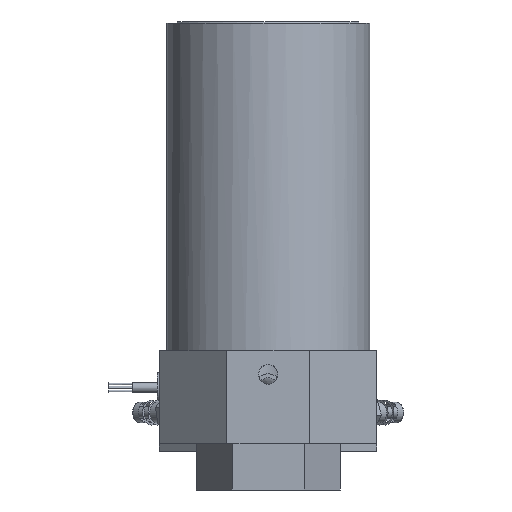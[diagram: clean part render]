
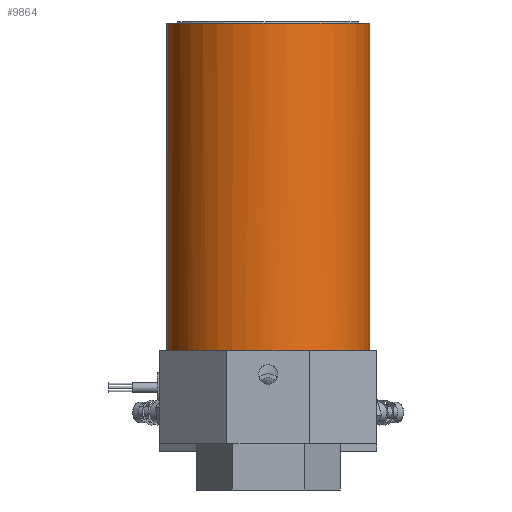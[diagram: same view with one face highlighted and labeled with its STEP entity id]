
A CAD part, left-side view. The second image highlights one B-rep face of the part: STEP entity #9864.
In plain terms, the highlighted cylindrical face has radius 20.637 mm (diameter 41.275 mm), a full revolution.
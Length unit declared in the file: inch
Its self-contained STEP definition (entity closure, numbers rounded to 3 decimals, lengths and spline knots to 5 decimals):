
#513=LINE('',#14115,#1354);
#1354=VECTOR('',#11487,0.8125);
#2168=CYLINDRICAL_SURFACE('',#10486,0.8125);
#2281=FACE_OUTER_BOUND('',#2826,.T.);
#2826=EDGE_LOOP('',(#6287,#6288,#6289,#6290,#6291,#6292,#6293,#6294,#6295,
#6296,#6297,#6298,#6299,#6300));
#3431=CIRCLE('',#10472,0.8125);
#3432=CIRCLE('',#10474,0.8125);
#3433=CIRCLE('',#10476,0.8125);
#3435=CIRCLE('',#10479,0.8125);
#3437=CIRCLE('',#10482,0.8125);
#3440=CIRCLE('',#10487,0.8125);
#3441=CIRCLE('',#10488,0.8125);
#3442=CIRCLE('',#10489,0.8125);
#3443=CIRCLE('',#10490,0.8125);
#3444=CIRCLE('',#10491,0.8125);
#3445=CIRCLE('',#10492,0.8125);
#3446=CIRCLE('',#10493,0.8125);
#3792=VERTEX_POINT('',#14077);
#3793=VERTEX_POINT('',#14078);
#3794=VERTEX_POINT('',#14082);
#3795=VERTEX_POINT('',#14083);
#3796=VERTEX_POINT('',#14087);
#3797=VERTEX_POINT('',#14088);
#3799=VERTEX_POINT('',#14093);
#3800=VERTEX_POINT('',#14095);
#3801=VERTEX_POINT('',#14099);
#3803=VERTEX_POINT('',#14102);
#3806=VERTEX_POINT('',#14112);
#3807=VERTEX_POINT('',#14114);
#4772=EDGE_CURVE('',#3793,#3792,#3431,.T.);
#4774=EDGE_CURVE('',#3794,#3795,#3432,.T.);
#4776=EDGE_CURVE('',#3797,#3796,#3433,.T.);
#4778=EDGE_CURVE('',#3799,#3800,#3435,.T.);
#4782=EDGE_CURVE('',#3803,#3801,#3437,.T.);
#4786=EDGE_CURVE('',#3806,#3806,#3440,.T.);
#4787=EDGE_CURVE('',#3806,#3807,#513,.T.);
#4788=EDGE_CURVE('',#3801,#3807,#3441,.T.);
#4789=EDGE_CURVE('',#3792,#3803,#3442,.T.);
#4790=EDGE_CURVE('',#3795,#3793,#3443,.T.);
#4791=EDGE_CURVE('',#3796,#3794,#3444,.T.);
#4792=EDGE_CURVE('',#3800,#3797,#3445,.T.);
#4793=EDGE_CURVE('',#3807,#3799,#3446,.T.);
#6287=ORIENTED_EDGE('',*,*,#4786,.T.);
#6288=ORIENTED_EDGE('',*,*,#4787,.T.);
#6289=ORIENTED_EDGE('',*,*,#4788,.F.);
#6290=ORIENTED_EDGE('',*,*,#4782,.F.);
#6291=ORIENTED_EDGE('',*,*,#4789,.F.);
#6292=ORIENTED_EDGE('',*,*,#4772,.F.);
#6293=ORIENTED_EDGE('',*,*,#4790,.F.);
#6294=ORIENTED_EDGE('',*,*,#4774,.F.);
#6295=ORIENTED_EDGE('',*,*,#4791,.F.);
#6296=ORIENTED_EDGE('',*,*,#4776,.F.);
#6297=ORIENTED_EDGE('',*,*,#4792,.F.);
#6298=ORIENTED_EDGE('',*,*,#4778,.F.);
#6299=ORIENTED_EDGE('',*,*,#4793,.F.);
#6300=ORIENTED_EDGE('',*,*,#4787,.F.);
#9864=ADVANCED_FACE('',(#2281),#2168,.T.);
#10472=AXIS2_PLACEMENT_3D('',#14080,#11450,#11451);
#10474=AXIS2_PLACEMENT_3D('',#14085,#11455,#11456);
#10476=AXIS2_PLACEMENT_3D('',#14090,#11460,#11461);
#10479=AXIS2_PLACEMENT_3D('',#14096,#11466,#11467);
#10482=AXIS2_PLACEMENT_3D('',#14104,#11474,#11475);
#10486=AXIS2_PLACEMENT_3D('',#14111,#11483,#11484);
#10487=AXIS2_PLACEMENT_3D('',#14113,#11485,#11486);
#10488=AXIS2_PLACEMENT_3D('',#14116,#11488,#11489);
#10489=AXIS2_PLACEMENT_3D('',#14117,#11490,#11491);
#10490=AXIS2_PLACEMENT_3D('',#14118,#11492,#11493);
#10491=AXIS2_PLACEMENT_3D('',#14119,#11494,#11495);
#10492=AXIS2_PLACEMENT_3D('',#14120,#11496,#11497);
#10493=AXIS2_PLACEMENT_3D('',#14121,#11498,#11499);
#11450=DIRECTION('center_axis',(0.,0.,
-1.));
#11451=DIRECTION('ref_axis',(-1.,0.,0.));
#11455=DIRECTION('center_axis',(0.,0.,
-1.));
#11456=DIRECTION('ref_axis',(-1.,0.,0.));
#11460=DIRECTION('center_axis',(0.,0.,
-1.));
#11461=DIRECTION('ref_axis',(-1.,0.,0.));
#11466=DIRECTION('center_axis',(0.,0.,
-1.));
#11467=DIRECTION('ref_axis',(-1.,0.,0.));
#11474=DIRECTION('center_axis',(0.,0.,
-1.));
#11475=DIRECTION('ref_axis',(-1.,0.,0.));
#11483=DIRECTION('center_axis',(0.,0.,
1.));
#11484=DIRECTION('ref_axis',(-1.,0.,0.));
#11485=DIRECTION('center_axis',(0.,0.,
-1.));
#11486=DIRECTION('ref_axis',(-1.,0.,0.));
#11487=DIRECTION('',(0.,0.,-1.));
#11488=DIRECTION('center_axis',(0.,0.,-1.));
#11489=DIRECTION('ref_axis',(-1.,0.,0.));
#11490=DIRECTION('center_axis',(0.,0.,-1.));
#11491=DIRECTION('ref_axis',(-1.,0.,0.));
#11492=DIRECTION('center_axis',(0.,0.,-1.));
#11493=DIRECTION('ref_axis',(-1.,0.,0.));
#11494=DIRECTION('center_axis',(0.,0.,-1.));
#11495=DIRECTION('ref_axis',(-1.,0.,0.));
#11496=DIRECTION('center_axis',(0.,0.,-1.));
#11497=DIRECTION('ref_axis',(-1.,0.,0.));
#11498=DIRECTION('center_axis',(0.,0.,-1.));
#11499=DIRECTION('ref_axis',(-1.,0.,0.));
#14077=CARTESIAN_POINT('',(-0.49804,0.64196,0.745));
#14078=CARTESIAN_POINT('',(-0.64196,0.49804,0.745));
#14080=CARTESIAN_POINT('Origin',(0.,0.,
0.745));
#14082=CARTESIAN_POINT('',(-0.81,-0.06369,0.745));
#14083=CARTESIAN_POINT('',(-0.81,0.06369,0.745));
#14085=CARTESIAN_POINT('Origin',(0.,0.,
0.745));
#14087=CARTESIAN_POINT('',(-0.64196,-0.49804,0.745));
#14088=CARTESIAN_POINT('',(-0.49804,-0.64196,0.745));
#14090=CARTESIAN_POINT('Origin',(0.,0.,
0.745));
#14093=CARTESIAN_POINT('',(0.61671,-0.52898,0.745));
#14095=CARTESIAN_POINT('',(0.49804,-0.64196,0.745));
#14096=CARTESIAN_POINT('Origin',(0.,0.,
0.745));
#14099=CARTESIAN_POINT('',(0.61671,0.52898,0.745));
#14102=CARTESIAN_POINT('',(0.49804,0.64196,0.745));
#14104=CARTESIAN_POINT('Origin',(0.,0.,
0.745));
#14111=CARTESIAN_POINT('Origin',(0.,0.,
0.745));
#14112=CARTESIAN_POINT('',(0.8125,0.,3.365));
#14113=CARTESIAN_POINT('Origin',(0.,0.,
3.365));
#14114=CARTESIAN_POINT('',(0.8125,0.,0.745));
#14115=CARTESIAN_POINT('',(0.8125,0.,0.745));
#14116=CARTESIAN_POINT('Origin',(0.,0.,
0.745));
#14117=CARTESIAN_POINT('Origin',(0.,0.,
0.745));
#14118=CARTESIAN_POINT('Origin',(0.,0.,
0.745));
#14119=CARTESIAN_POINT('Origin',(0.,0.,
0.745));
#14120=CARTESIAN_POINT('Origin',(0.,0.,
0.745));
#14121=CARTESIAN_POINT('Origin',(0.,0.,
0.745));
